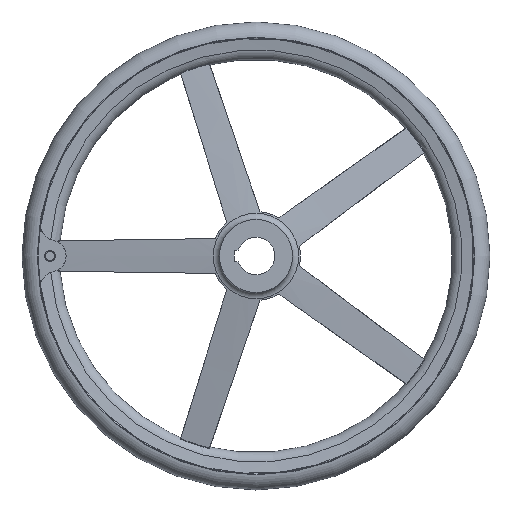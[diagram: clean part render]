
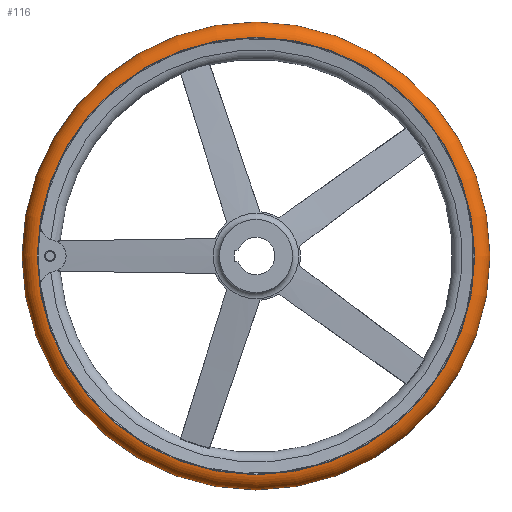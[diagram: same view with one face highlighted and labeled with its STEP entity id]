
A CAD part, left-side view. The second image highlights one B-rep face of the part: STEP entity #116.
In plain terms, the highlighted toroidal (fillet/blend) face has major radius 232.985 mm and minor radius 17.015 mm.
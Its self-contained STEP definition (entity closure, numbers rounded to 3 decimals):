
#116 = ADVANCED_FACE( '', ( #244, #245, #246 ), #247, .T. );
#244 = FACE_BOUND( '', #438, .T. );
#245 = FACE_OUTER_BOUND( '', #439, .T. );
#246 = FACE_OUTER_BOUND( '', #440, .T. );
#247 = TOROIDAL_SURFACE( '', #441, 232.985, 17.015 );
#438 = VERTEX_LOOP( '', #853 );
#439 = EDGE_LOOP( '', ( #854 ) );
#440 = EDGE_LOOP( '', ( #855 ) );
#441 = AXIS2_PLACEMENT_3D( '', #856, #857, #858 );
#853 = VERTEX_POINT( '', #1184 );
#854 = ORIENTED_EDGE( '', *, *, #1185, .T. );
#855 = ORIENTED_EDGE( '', *, *, #1186, .F. );
#856 = CARTESIAN_POINT( '', ( 55., 0., 0. ) );
#857 = DIRECTION( '', ( 1., 0., 0. ) );
#858 = DIRECTION( '', ( 0., 1., 0. ) );
#1184 = CARTESIAN_POINT( '', ( 55., 250., 0. ) );
#1185 = EDGE_CURVE( '', #1466, #1466, #1467, .T. );
#1186 = EDGE_CURVE( '', #1468, #1468, #1469, .T. );
#1466 = VERTEX_POINT( '', #2390 );
#1467 = CIRCLE( '', #2391, 233.708 );
#1468 = VERTEX_POINT( '', #2392 );
#1469 = CIRCLE( '', #2393, 233.708 );
#2390 = CARTESIAN_POINT( '', ( 38., 233.708, 0. ) );
#2391 = AXIS2_PLACEMENT_3D( '', #2671, #2672, #2673 );
#2392 = CARTESIAN_POINT( '', ( 72., 233.708, 0. ) );
#2393 = AXIS2_PLACEMENT_3D( '', #2674, #2675, #2676 );
#2671 = CARTESIAN_POINT( '', ( 38., 0., 0. ) );
#2672 = DIRECTION( '', ( 1., 0., 0. ) );
#2673 = DIRECTION( '', ( 0., 1., 0. ) );
#2674 = CARTESIAN_POINT( '', ( 72., 0., 0. ) );
#2675 = DIRECTION( '', ( 1., 0., 0. ) );
#2676 = DIRECTION( '', ( 0., 1., 0. ) );
